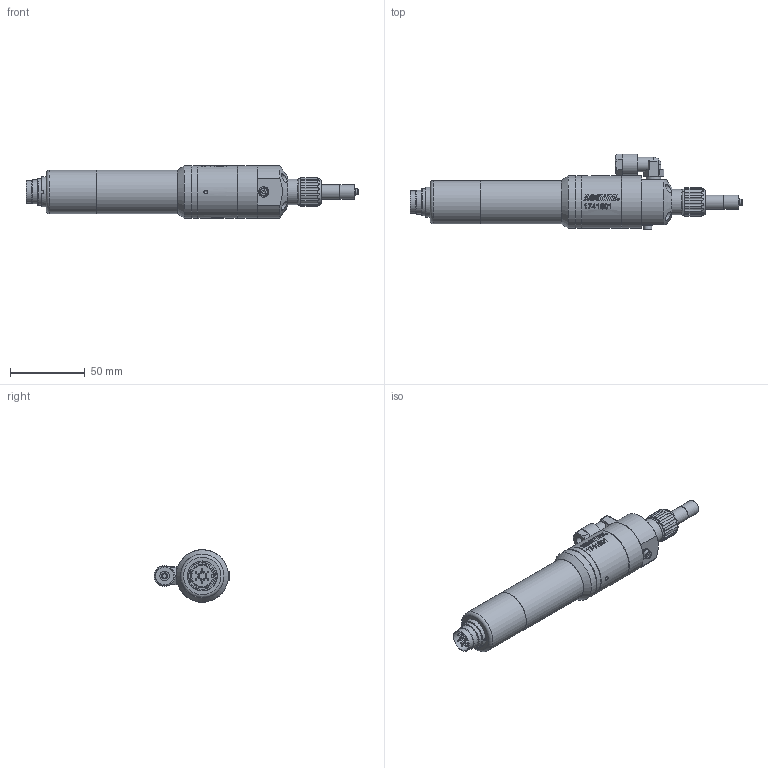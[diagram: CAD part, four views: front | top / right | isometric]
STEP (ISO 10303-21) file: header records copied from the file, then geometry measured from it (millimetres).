
FILE_DESCRIPTION(/* description */ (''),/* implementation_level */ '2;1');
FILE_NAME(/* name */ 'A:\3D Projects\Rotor Pumps, Mike Andrade\1741601-97621 Compact Rotor Pump 1.0\1741601 97621 Compact Rotor Pump 1.0.stp',/* time_stamp */ '2014-11-19T13:10:17-05:00',/* author */ ('patch'),/* organization */ (''),/* preprocessor_version */ 'ST-DEVELOPER v15.6',/* originating_system */ 'Autodesk Inventor 2015',/* authorisation */ '');
FILE_SCHEMA (('AUTOMOTIVE_DESIGN { 1 0 10303 214 3 1 1 }'));
Length unit declared in the file: millimetre
Products named in the file (30): DIN 912 M3 x 25 --- 18C_DIN 912 M3 x 25 --- 18C; 130316; 130317; Washer DIN 125 - A 3.2 - 300HV_Washer DIN 125 - A 3.2 - 300HV; DIN 912 M3 x 6 --- 6S_DIN 912 M3 x 6 --- 6S; 20214_extern; 20820_extern; 20821; 20427_extern; 130566_eco-PEN450 Nadeldichtung; 20426_fr extern#; 130458_extern; 20433; DIN 912 M3 x 16 --- 16N_DIN 912 M3 x 16 --- 16N; 20822_extern; 20211_Externdaten; 20049; Parallel Pin ISO 8734 - 2 x 8 - A - St_Parallel Pin ISO 8734 - 2 x 8 
- A - St; 20050; 130339_eco-PEN450; DIN 913 - M3 x 3-C_DIN 913 - M3 x 3-C; 20232; 20032; 20832; 21034_Externdaten; 21035_Externdaten; 20835_extern1k; 20213_extern; 8964918 Product Fitting; 1741601 97621 Compact Rotor Pump 1.0
Assembly tree (35 placements, depth 4):
  1741601 97621 Compact Rotor Pump 1.0
    20822_extern
      DIN 912 M3 x 25 --- 18C_DIN 912 M3 x 25 --- 18C  x4
      130316
      130317
      Washer DIN 125 - A 3.2 - 300HV_Washer DIN 125 - A 3.2 - 300HV
      DIN 912 M3 x 6 --- 6S_DIN 912 M3 x 6 --- 6S
      20214_extern
      20820_extern
      20821
      20426_fr extern#
        20427_extern
        130566_eco-PEN450 Nadeldichtung
      130458_extern
      20433
      DIN 912 M3 x 16 --- 16N_DIN 912 M3 x 16 --- 16N  x4
    20835_extern1k
      20211_Externdaten
      20049
      Parallel Pin ISO 8734 - 2 x 8 - A - St_Parallel Pin ISO 8734 - 2 x 8 
- A - St
      20050
      130339_eco-PEN450
      DIN 913 - M3 x 3-C_DIN 913 - M3 x 3-C
      20232
      20032
      20832
      21034_Externdaten
      21035_Externdaten
    20213_extern
    8964918 Product Fitting
Bounding box: 221.7 x 50.63 x 35.08 mm (x, y, z)
Volume: 139110 mm3; surface area: 47296.6 mm2
Topology: 32 solids, 33 shells, 1641 faces, 4164 edges, 2702 vertices
Faces by surface type: plane 1102, cylinder 311, cone 111, torus 48, bspline 48, sphere 21
Full cylindrical faces by diameter (mm): 0.6 x14, 0.7 x14, 1 x14, 1.307 x1, 1.567 x1, 2 x3, 2.5 x4, 3 x12, 3.1 x4, 3.2 x1, 3.3 x4, 3.4 x1, 4 x2, 5.5 x13, 5.6 x4, 6.3 x1, 6.8 x1, 7 x1, 8 x1, 8.566 x1, 9 x1, 9.5 x3, 9.7 x1, 9.73 x2, 10 x2, 11 x1, 12 x1, 13 x3, 14 x1, 14.4 x2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
Entity records: 49135 total; most frequent: CARTESIAN_POINT 10797, DIRECTION 8388, ORIENTED_EDGE 7098, EDGE_CURVE 3548, AXIS2_PLACEMENT_3D 3518, VERTEX_POINT 2454, EDGE_LOOP 1924, FACE_OUTER_BOUND 1515
